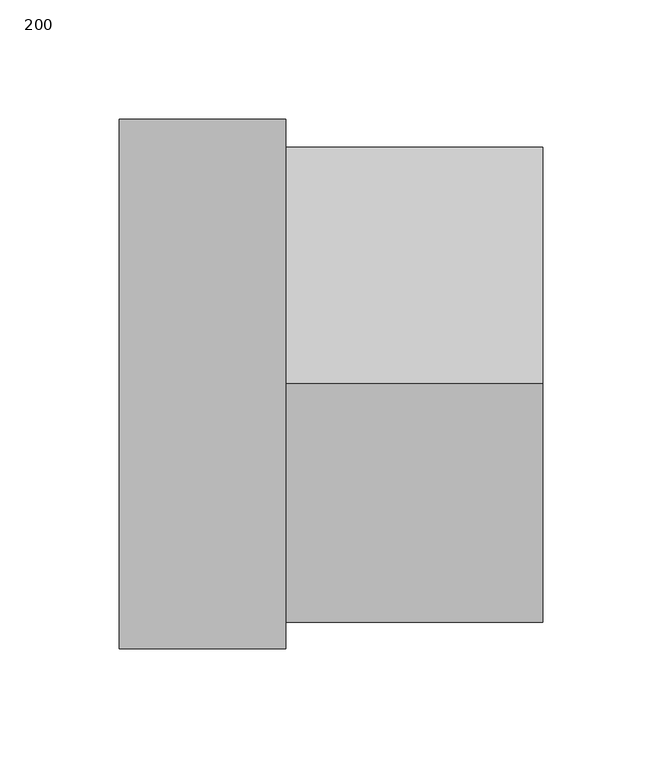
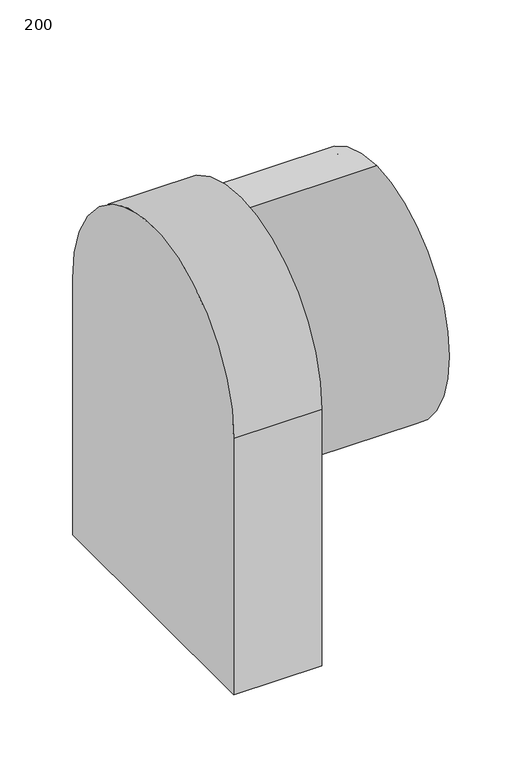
"""IFC4 building model written with IfcOpenShell, lengths in millimetres: valve geometry, Pipelife - Studnia PRO - Syfon : 200."""

from ifc_helpers import new_model, si_unit, point, frame, frame_2d, origin, place, context, project, spatial, polyline, circle_curve, trimmed, segment, composite_curve, outline, extrude, source, transform, mapped, element, save


def valve_200_07a3bc92(model_context):
    return source(origin(), model_context, "Body", "SweptSolid", [
        extrude(outline(composite_curve([segment(trimmed(circle_curve(frame_2d((0.0, 216.0)), 100.0), [point((0.0, 116.0))], [point((0.0, 316.0))], False, "CARTESIAN"), True, "CONTINUOUS"), segment(trimmed(circle_curve(frame_2d((0.0, 216.0)), 100.0), [point((0.0, 316.0))], [point((0.0, 116.0))], False, "CARTESIAN"), True, "CONTINUOUS")], self_intersect=False), holes=[composite_curve([segment(trimmed(circle_curve(frame_2d((0.0, 216.0)), 94.0), [point((0.0, 122.0))], [point((0.0, 310.0))], True, "CARTESIAN"), True, "CONTINUOUS"), segment(trimmed(circle_curve(frame_2d((0.0, 216.0)), 94.0), [point((0.0, 310.0))], [point((0.0, 122.0))], True, "CARTESIAN"), True, "CONTINUOUS")], self_intersect=False)]), frame((70.0, 0.0, 0.0), z_axis=(1.0, 0.0, 0.0), x_axis=(0.0, 1.0, 0.0)), (0.0, 0.0, 1.0), 108.0),
        extrude(outline(composite_curve([segment(polyline([(-111.25, 0.0), (-111.25, 216.0)]), True, "CONTINUOUS"), segment(trimmed(circle_curve(frame_2d((0.0, 216.0)), 111.25), [point((-111.25, 216.0))], [point((111.25, 216.0))], False, "CARTESIAN"), True, "CONTINUOUS"), segment(polyline([(111.25, 216.0), (111.25, 0.0), (-111.25, 0.0)]), True, "CONTINUOUS")], self_intersect=False)), frame((0.0, 0.0, 0.0), z_axis=(1.0, 0.0, 0.0), x_axis=(0.0, 1.0, 0.0)), (0.0, 0.0, 1.0), 70.0),
    ])


if __name__ == "__main__":
    model = new_model("IFC4")
    model_context = context("Model", 3, world=origin())
    ifc_project = project(units=[si_unit("LENGTHUNIT", "METRE", prefix="MILLI")], contexts=[model_context])
    site = spatial("IfcSite", under=ifc_project)
    building = spatial("IfcBuilding", under=site)
    placement = place(None, origin())
    valve_200_shape = valve_200_07a3bc92(model_context)
    element("IfcValve", 1, ObjectType="Pipelife - Studnia PRO - Syfon : 200", at=placement, inside=building, context=model_context, shape_type="MappedRepresentation", body=[
        mapped(valve_200_shape, transform((0.0, 0.0, 0.0), x_axis=(1.0, 0.0, 0.0), y_axis=(0.0, 1.0, 0.0), z_axis=(0.0, 0.0, 1.0))),
    ])
    save(model, "model.ifc")
